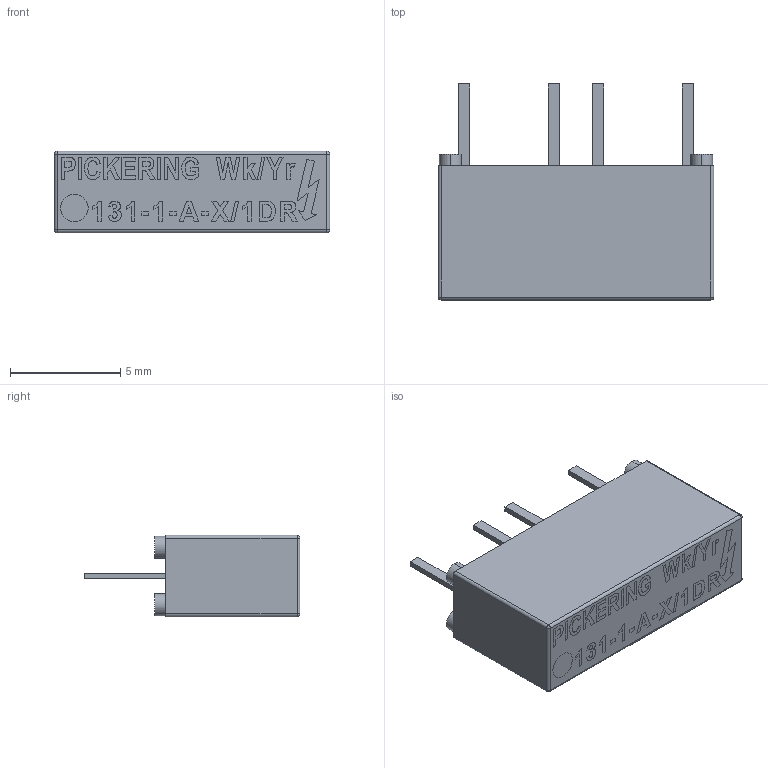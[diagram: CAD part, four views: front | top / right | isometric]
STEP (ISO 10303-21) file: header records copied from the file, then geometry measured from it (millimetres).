
FILE_DESCRIPTION (( 'STEP AP203' ), '1' );
FILE_NAME ('131-1-A-X-1DR.STEP', '2020-02-13T16:14:33', ( '' ), ( '' ), 'SwSTEP 2.0', 'SolidWorks 2019', '' );
FILE_SCHEMA (( 'CONFIG_CONTROL_DESIGN' ));
Length unit declared in the file: millimetre
Products named in the file (1): 131-1-A-X-1DR
Bounding box: 12.5 x 9.8 x 3.7 mm (x, y, z)
Volume: 285.4 mm3; surface area: 315.6 mm2
Topology: 1 solids, 1 shells, 359 faces, 937 edges, 618 vertices
Faces by surface type: plane 267, bspline 70, cylinder 18, sphere 4
Entity records: 14504 total; most frequent: CARTESIAN_POINT 6061, ORIENTED_EDGE 1866, DIRECTION 1409, EDGE_CURVE 933, LINE 757, VECTOR 757, VERTEX_POINT 618, EDGE_LOOP 401
